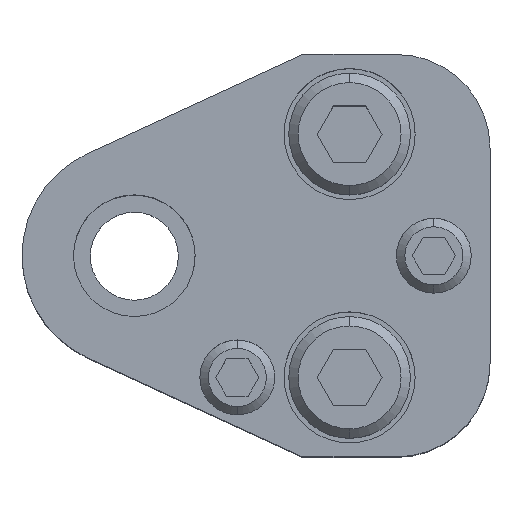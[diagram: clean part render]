
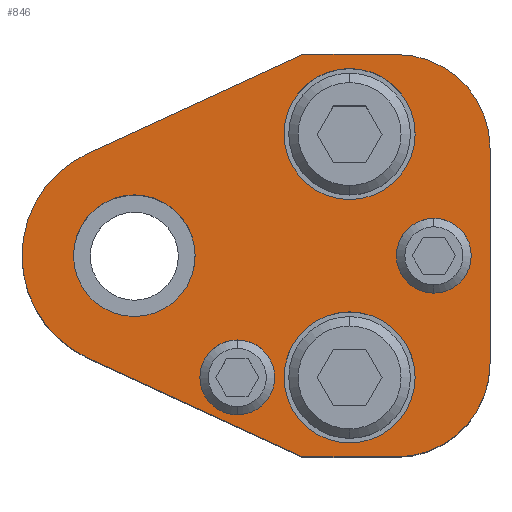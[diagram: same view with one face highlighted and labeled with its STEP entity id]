
A CAD part, top view. The second image highlights one B-rep face of the part: STEP entity #846.
In plain terms, the highlighted planar face has unit normal (0, 0, 1).
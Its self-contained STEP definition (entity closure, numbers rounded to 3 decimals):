
#461=LINE('',#4196,#659);
#466=LINE('',#4211,#664);
#470=LINE('',#4223,#668);
#475=LINE('',#4232,#673);
#480=LINE('',#4246,#678);
#659=VECTOR('',#3371,1.);
#664=VECTOR('',#3384,1.);
#668=VECTOR('',#3396,1.);
#673=VECTOR('',#3403,1.);
#678=VECTOR('',#3416,1.);
#846=ADVANCED_FACE('',(#979,#980,#981,#982,#983,#984),#943,.T.);
#943=PLANE('',#2837);
#979=FACE_BOUND('',#1131,.T.);
#980=FACE_BOUND('',#1132,.T.);
#981=FACE_BOUND('',#1133,.T.);
#982=FACE_BOUND('',#1134,.T.);
#983=FACE_BOUND('',#1135,.T.);
#984=FACE_BOUND('',#1136,.T.);
#1131=EDGE_LOOP('',(#1676,#1677,#1678,#1679,#1680,#1681,#1682,#1683));
#1132=EDGE_LOOP('',(#1684,#1685));
#1133=EDGE_LOOP('',(#1686,#1687));
#1134=EDGE_LOOP('',(#1688,#1689));
#1135=EDGE_LOOP('',(#1690,#1691));
#1136=EDGE_LOOP('',(#1692,#1693));
#1676=ORIENTED_EDGE('',*,*,#2340,.T.);
#1677=ORIENTED_EDGE('',*,*,#2322,.T.);
#1678=ORIENTED_EDGE('',*,*,#2326,.T.);
#1679=ORIENTED_EDGE('',*,*,#2329,.T.);
#1680=ORIENTED_EDGE('',*,*,#2332,.T.);
#1681=ORIENTED_EDGE('',*,*,#2335,.T.);
#1682=ORIENTED_EDGE('',*,*,#2347,.T.);
#1683=ORIENTED_EDGE('',*,*,#2343,.T.);
#1684=ORIENTED_EDGE('',*,*,#2382,.F.);
#1685=ORIENTED_EDGE('',*,*,#2383,.F.);
#1686=ORIENTED_EDGE('',*,*,#2384,.F.);
#1687=ORIENTED_EDGE('',*,*,#2385,.F.);
#1688=ORIENTED_EDGE('',*,*,#2372,.F.);
#1689=ORIENTED_EDGE('',*,*,#2368,.F.);
#1690=ORIENTED_EDGE('',*,*,#2366,.F.);
#1691=ORIENTED_EDGE('',*,*,#2362,.F.);
#1692=ORIENTED_EDGE('',*,*,#2386,.T.);
#1693=ORIENTED_EDGE('',*,*,#2387,.T.);
#2023=VERTEX_POINT('',#4195);
#2024=VERTEX_POINT('',#4197);
#2027=VERTEX_POINT('',#4204);
#2029=VERTEX_POINT('',#4210);
#2031=VERTEX_POINT('',#4216);
#2033=VERTEX_POINT('',#4222);
#2037=VERTEX_POINT('',#4233);
#2039=VERTEX_POINT('',#4239);
#2053=VERTEX_POINT('',#4281);
#2054=VERTEX_POINT('',#4282);
#2057=VERTEX_POINT('',#4293);
#2058=VERTEX_POINT('',#4294);
#2065=VERTEX_POINT('',#4321);
#2066=VERTEX_POINT('',#4322);
#2067=VERTEX_POINT('',#4325);
#2068=VERTEX_POINT('',#4326);
#2069=VERTEX_POINT('',#4329);
#2070=VERTEX_POINT('',#4330);
#2322=EDGE_CURVE('',#2024,#2023,#461,.T.);
#2326=EDGE_CURVE('',#2023,#2027,#2547,.T.);
#2329=EDGE_CURVE('',#2027,#2029,#466,.T.);
#2332=EDGE_CURVE('',#2029,#2031,#2549,.T.);
#2335=EDGE_CURVE('',#2031,#2033,#470,.T.);
#2340=EDGE_CURVE('',#2037,#2024,#475,.T.);
#2343=EDGE_CURVE('',#2039,#2037,#2552,.T.);
#2347=EDGE_CURVE('',#2033,#2039,#480,.T.);
#2362=EDGE_CURVE('',#2053,#2054,#2561,.T.);
#2366=EDGE_CURVE('',#2054,#2053,#2563,.T.);
#2368=EDGE_CURVE('',#2057,#2058,#2565,.T.);
#2372=EDGE_CURVE('',#2058,#2057,#2567,.T.);
#2382=EDGE_CURVE('',#2065,#2066,#2573,.T.);
#2383=EDGE_CURVE('',#2066,#2065,#2574,.T.);
#2384=EDGE_CURVE('',#2067,#2068,#2575,.T.);
#2385=EDGE_CURVE('',#2068,#2067,#2576,.T.);
#2386=EDGE_CURVE('',#2069,#2070,#2577,.T.);
#2387=EDGE_CURVE('',#2070,#2069,#2578,.T.);
#2547=CIRCLE('',#2788,10.);
#2549=CIRCLE('',#2792,10.);
#2552=CIRCLE('',#2798,12.);
#2561=CIRCLE('',#2811,4.);
#2563=CIRCLE('',#2814,4.);
#2565=CIRCLE('',#2817,4.);
#2567=CIRCLE('',#2820,4.);
#2573=CIRCLE('',#2831,7.);
#2574=CIRCLE('',#2832,7.);
#2575=CIRCLE('',#2833,7.);
#2576=CIRCLE('',#2834,7.);
#2577=CIRCLE('',#2835,6.5);
#2578=CIRCLE('',#2836,6.5);
#2788=AXIS2_PLACEMENT_3D('',#4205,#3377,#3378);
#2792=AXIS2_PLACEMENT_3D('',#4217,#3389,#3390);
#2798=AXIS2_PLACEMENT_3D('',#4238,#3409,#3410);
#2811=AXIS2_PLACEMENT_3D('',#4280,#3444,#3445);
#2814=AXIS2_PLACEMENT_3D('',#4289,#3452,#3453);
#2817=AXIS2_PLACEMENT_3D('',#4292,#3458,#3459);
#2820=AXIS2_PLACEMENT_3D('',#4301,#3466,#3467);
#2831=AXIS2_PLACEMENT_3D('',#4320,#3492,#3493);
#2832=AXIS2_PLACEMENT_3D('',#4323,#3494,#3495);
#2833=AXIS2_PLACEMENT_3D('',#4324,#3496,#3497);
#2834=AXIS2_PLACEMENT_3D('',#4327,#3498,#3499);
#2835=AXIS2_PLACEMENT_3D('',#4328,#3500,#3501);
#2836=AXIS2_PLACEMENT_3D('',#4331,#3502,#3503);
#2837=AXIS2_PLACEMENT_3D('',#4332,#3504,#3505);
#3371=DIRECTION('',(1.,0.,0.));
#3377=DIRECTION('',(0.,0.,1.));
#3378=DIRECTION('',(-0.707,0.707,0.));
#3384=DIRECTION('',(0.,1.,0.));
#3389=DIRECTION('',(0.,0.,1.));
#3390=DIRECTION('',(-0.707,-0.707,0.));
#3396=DIRECTION('',(-1.,0.,0.));
#3403=DIRECTION('',(0.908,-0.418,0.));
#3409=DIRECTION('',(0.,0.,1.));
#3410=DIRECTION('',(1.,0.,0.));
#3416=DIRECTION('',(-0.908,-0.418,0.));
#3444=DIRECTION('',(0.,0.,1.));
#3445=DIRECTION('',(-1.,0.,0.));
#3452=DIRECTION('',(0.,0.,1.));
#3453=DIRECTION('',(1.,0.,0.));
#3458=DIRECTION('',(0.,0.,1.));
#3459=DIRECTION('',(-1.,0.,0.));
#3466=DIRECTION('',(0.,0.,1.));
#3467=DIRECTION('',(1.,0.,0.));
#3492=DIRECTION('',(0.,0.,1.));
#3493=DIRECTION('',(1.,0.,0.));
#3494=DIRECTION('',(0.,0.,1.));
#3495=DIRECTION('',(-1.,0.,0.));
#3496=DIRECTION('',(0.,0.,1.));
#3497=DIRECTION('',(1.,0.,0.));
#3498=DIRECTION('',(0.,0.,1.));
#3499=DIRECTION('',(-1.,0.,0.));
#3500=DIRECTION('',(0.,0.,-1.));
#3501=DIRECTION('',(-1.,0.,0.));
#3502=DIRECTION('',(0.,0.,-1.));
#3503=DIRECTION('',(1.,0.,0.));
#3504=DIRECTION('',(0.,0.,1.));
#3505=DIRECTION('',(0.908,-0.418,0.));
#4195=CARTESIAN_POINT('',(28.,-21.5,35.));
#4196=CARTESIAN_POINT('',(18.,-21.5,35.));
#4197=CARTESIAN_POINT('',(18.,-21.5,35.));
#4204=CARTESIAN_POINT('',(38.,-11.5,35.));
#4205=CARTESIAN_POINT('',(28.,-11.5,35.));
#4210=CARTESIAN_POINT('',(38.,11.5,35.));
#4211=CARTESIAN_POINT('',(38.,11.5,35.));
#4216=CARTESIAN_POINT('',(28.,21.5,35.));
#4217=CARTESIAN_POINT('',(28.,11.5,35.));
#4222=CARTESIAN_POINT('',(18.,21.5,35.));
#4223=CARTESIAN_POINT('',(18.,21.5,35.));
#4232=CARTESIAN_POINT('',(18.,-21.5,35.));
#4233=CARTESIAN_POINT('',(-5.019,-10.9,35.));
#4238=CARTESIAN_POINT('',(0.,0.,35.));
#4239=CARTESIAN_POINT('',(-5.019,10.9,35.));
#4246=CARTESIAN_POINT('',(18.,21.5,35.));
#4280=CARTESIAN_POINT('',(11.,-13.,35.));
#4281=CARTESIAN_POINT('',(11.,-17.,35.));
#4282=CARTESIAN_POINT('',(11.,-9.,35.));
#4289=CARTESIAN_POINT('',(11.,-13.,35.));
#4292=CARTESIAN_POINT('',(32.,0.,35.));
#4293=CARTESIAN_POINT('',(32.,-4.,35.));
#4294=CARTESIAN_POINT('',(32.,4.,35.));
#4301=CARTESIAN_POINT('',(32.,0.,35.));
#4320=CARTESIAN_POINT('',(23.,13.,35.));
#4321=CARTESIAN_POINT('',(23.,20.,35.));
#4322=CARTESIAN_POINT('',(23.,6.,35.));
#4323=CARTESIAN_POINT('',(23.,13.,35.));
#4324=CARTESIAN_POINT('',(23.,-13.,35.));
#4325=CARTESIAN_POINT('',(23.,-6.,35.));
#4326=CARTESIAN_POINT('',(23.,-20.,35.));
#4327=CARTESIAN_POINT('',(23.,-13.,35.));
#4328=CARTESIAN_POINT('',(0.,0.,35.));
#4329=CARTESIAN_POINT('',(0.,6.5,35.));
#4330=CARTESIAN_POINT('',(0.,-6.5,35.));
#4331=CARTESIAN_POINT('',(0.,0.,35.));
#4332=CARTESIAN_POINT('',(-5.019,-10.9,35.));
